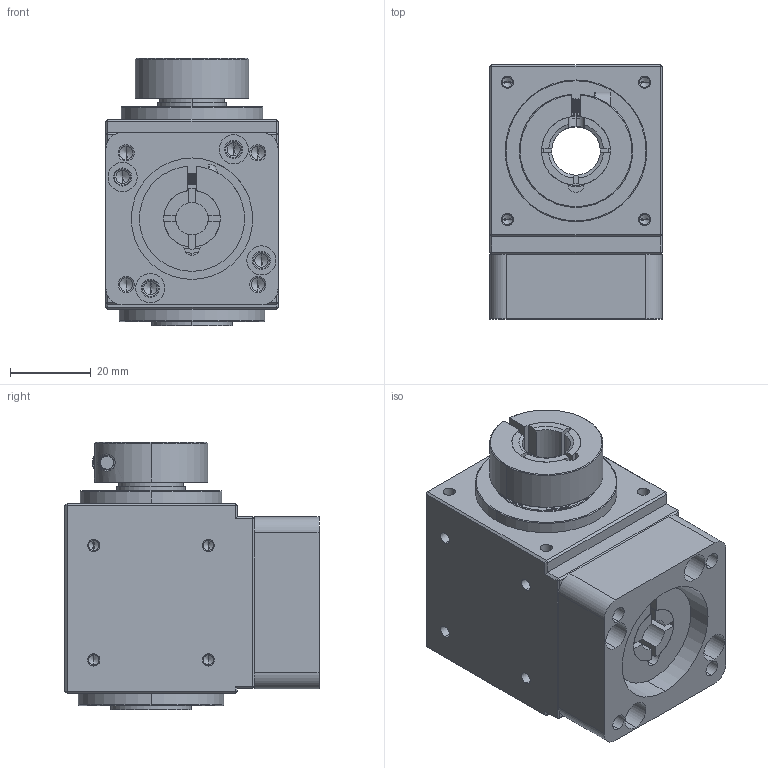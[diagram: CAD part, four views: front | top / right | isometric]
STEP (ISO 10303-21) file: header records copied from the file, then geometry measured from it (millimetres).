
FILE_DESCRIPTION (( 'STEP AP214' ), '1' );
FILE_NAME ('RH42-2(8-30-46-M4).STEP', '2018-12-05T04:19:42', ( '' ), ( '' ), 'SwSTEP 2.0', 'SolidWorks 2016', '' );
FILE_SCHEMA (( 'AUTOMOTIVE_DESIGN' ));
Length unit declared in the file: millimetre
Products named in the file (9): R42-2-(8); SN42-26x14x11-M4; RH42-2(8-30-46-M4); RH42-(12x11-4x10); R42-2(30-46-M4); R42-17x25x4; R42; RH42-28x17x10; R42-20x32x5
Assembly tree (8 placements, depth 2):
  RH42-2(8-30-46-M4)
    R42
    R42-2(30-46-M4)
    RH42-(12x11-4x10)
    R42-20x32x5
    R42-17x25x4
    SN42-26x14x11-M4
    R42-2-(8)
    RH42-28x17x10
Bounding box: 42.5 x 62.75 x 66 mm (x, y, z)
Volume: 86001 mm3; surface area: 46835.3 mm2
Topology: 10 solids, 10 shells, 754 faces, 1845 edges, 1116 vertices
Faces by surface type: cylinder 367, plane 169, cone 132, bspline 46, torus 40
Entity records: 45105 total; most frequent: CARTESIAN_POINT 26972, ORIENTED_EDGE 3578, DIRECTION 3353, EDGE_CURVE 1789, AXIS2_PLACEMENT_3D 1300, VERTEX_POINT 1116, EDGE_LOOP 849, ADVANCED_FACE 754
